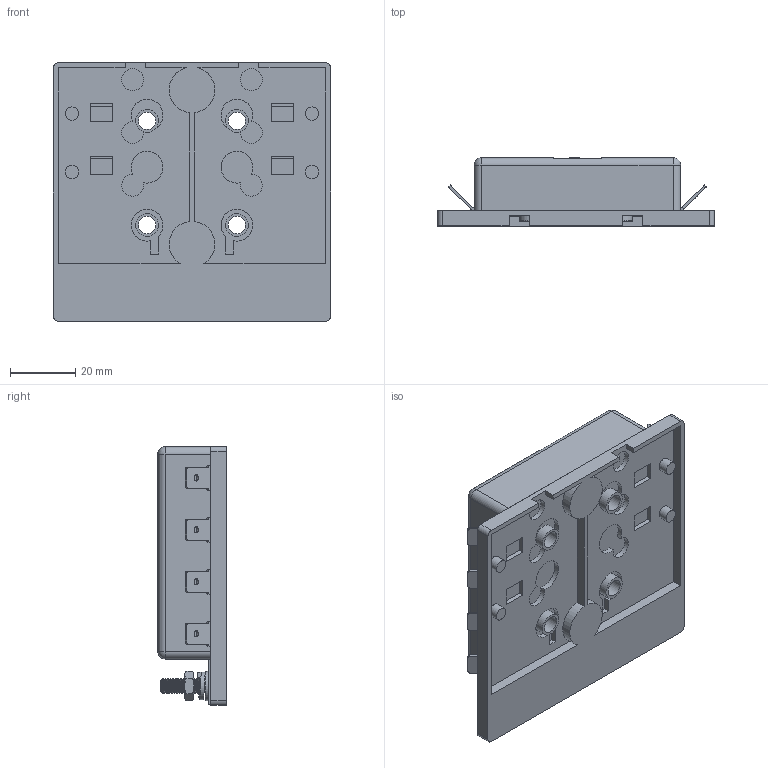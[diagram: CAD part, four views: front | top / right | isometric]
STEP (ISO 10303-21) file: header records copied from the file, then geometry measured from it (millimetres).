
FILE_DESCRIPTION(/* description */ (''),/* implementation_level */ '2;1');
FILE_NAME(/* name */ 'C:\Users\Hani\Desktop\work\BLC-108-G\BLC-108.stp',/* time_stamp */ '2021-07-08T15:12:30-07:00',/* author */ ('Hani'),/* organization */ (''),/* preprocessor_version */ 'ST-DEVELOPER v17',/* originating_system */ 'Autodesk Inventor 2019',/* authorisation */ '');
FILE_SCHEMA (('AUTOMOTIVE_DESIGN { 1 0 10303 214 3 1 1 }'));
Length unit declared in the file: inch
Products named in the file (11): BLC-106; BLC-108-BASE; BLOCK; plate2; STUD; WASHER; LOCK WASHER; HEX NUT; terminal; terminal_MIR1; terminal_MIR
Assembly tree (15 placements, depth 2):
  BLC-106
    BLC-108-BASE
    BLOCK
    plate2
    STUD
    WASHER
    LOCK WASHER
    HEX NUT
    terminal  x4
    terminal_MIR1  x3
    terminal_MIR
Bounding box: 85.24 x 21.01 x 79.5 mm (x, y, z)
Volume: 79924.1 mm3; surface area: 37986.4 mm2
Topology: 15 solids, 15 shells, 819 faces, 2134 edges, 1392 vertices
Faces by surface type: plane 544, cylinder 132, bspline 74, cone 48, torus 17, sphere 4
Full cylindrical faces by diameter (mm): 1.905 x8, 3.769 x16, 3.795 x1, 4.064 x4, 4.775 x1, 4.801 x17, 4.826 x3, 4.953 x1, 5.309 x4, 6.706 x2, 7.087 x4, 8.992 x1, 10.617 x3
Entity records: 27513 total; most frequent: CARTESIAN_POINT 9415, ORIENTED_EDGE 3838, DIRECTION 3320, EDGE_CURVE 1919, LINE 1364, VECTOR 1364, VERTEX_POINT 1252, AXIS2_PLACEMENT_3D 978
